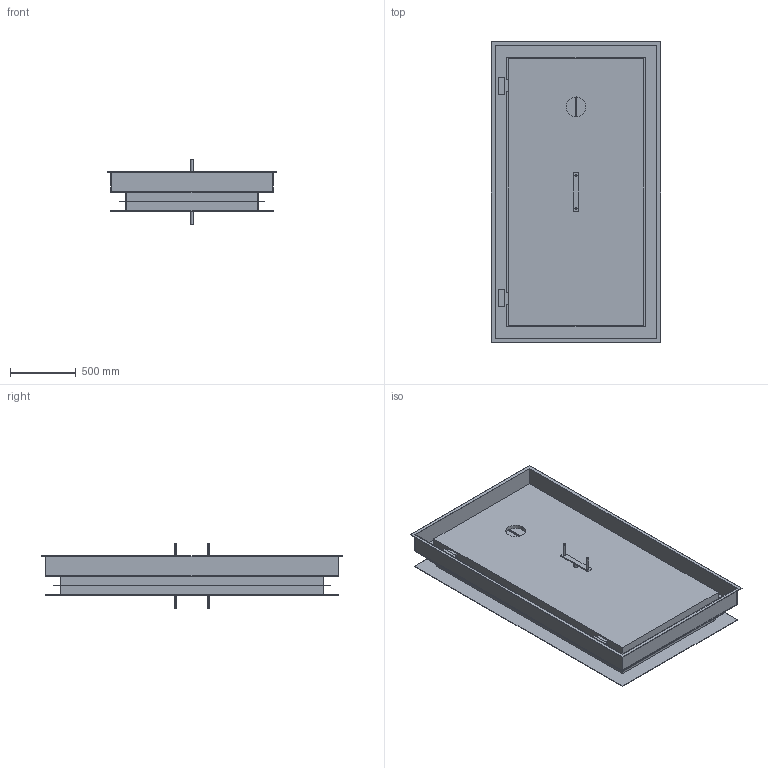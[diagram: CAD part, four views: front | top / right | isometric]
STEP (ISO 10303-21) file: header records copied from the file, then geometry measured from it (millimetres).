
FILE_DESCRIPTION((''),'2;1');
FILE_NAME('51292853_SW0001','2018-11-09T',('ka'),('HUBER SE'),'PRO/ENGINEER BY PARAMETRIC TECHNOLOGY CORPORATION, 2017170','PRO/ENGINEER BY PARAMETRIC TECHNOLOGY CORPORATION, 2017170','');
FILE_SCHEMA(('AUTOMOTIVE_DESIGN { 1 0 10303 214 1 1 1 1 }'));
Length unit declared in the file: millimetre
Products named in the file (1): 51292853_SW0001
Bounding box: 1290 x 2290 x 495 mm (x, y, z)
Volume: 206688314.2 mm3; surface area: 12930987.7 mm2
Topology: 1 solids, 1 shells, 118 faces, 274 edges, 180 vertices
Faces by surface type: plane 100, cylinder 18
Entity records: 3928 total; most frequent: CARTESIAN_POINT 574, ORIENTED_EDGE 548, DIRECTION 546, EDGE_CURVE 274, VECTOR 238, LINE 238, VERTEX_POINT 180, AXIS2_PLACEMENT_3D 154
